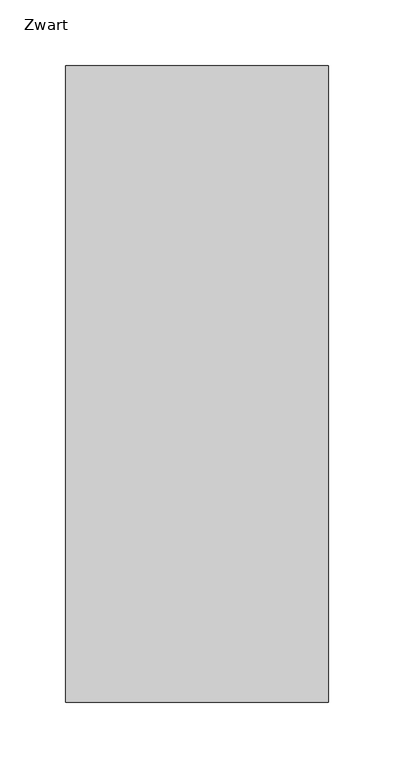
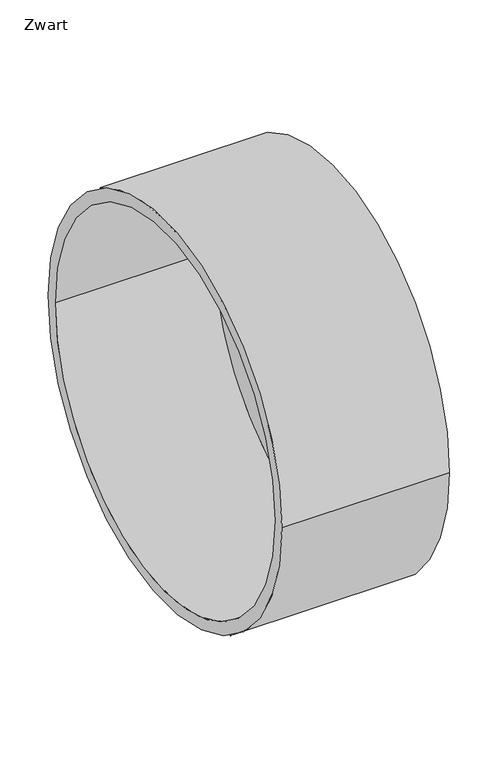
"""IFC4 building model written with IfcOpenShell, lengths in millimetres: pipe fitting geometry, NLRS_52_PIF_UN_Ultra Kyma afsluitkap LV_Dyka : Zwart."""

from ifc_helpers import new_model, si_unit, frame, origin, place, context, project, spatial, polyline, circle_curve, source, transform, mapped, element, save
from ifc_brep_helpers import plane_surface, cylinder_surface, revolved_surface, advanced_brep


def zwart_4540c7c7(model_context):
    return source(origin(), model_context, "Body", "AdvancedBrep", [
        advanced_brep(
        [(0.0, -227.0, 0.0), (0.0, 227.0, 0.0), (-190.0, 227.0, 0.0), (-190.0, -227.0, 0.0), (10.0, -242.0, 0.0), (10.0, 242.0, 0.0), (-190.0, -242.0, 0.0), (-190.0, 242.0, 0.0)],
        [
            (0, 1, circle_curve(frame((0.0, 0.0, 0.0), z_axis=(-1.0, 0.0, 0.0), x_axis=(0.0, 1.0, 0.0)), 227.0)),
            (1, 0, circle_curve(frame((0.0, 0.0, 0.0), z_axis=(-1.0, 0.0, 0.0), x_axis=(0.0, 1.0, 0.0)), 227.0)),
            (1, 2),
            (2, 3, circle_curve(frame((-190.0, 0.0, 0.0), z_axis=(-1.0, 0.0, 0.0), x_axis=(0.0, 1.0, 0.0)), 227.0)),
            (3, 0),
            (3, 2, circle_curve(frame((-190.0, 0.0, 0.0), z_axis=(-1.0, 0.0, 0.0), x_axis=(0.0, 1.0, 0.0)), 227.0)),
            (4, 5, circle_curve(frame((10.0, 0.0, 0.0), z_axis=(1.0, 0.0, 0.0), x_axis=(0.0, 1.0, 0.0)), 242.0)),
            (5, 4, circle_curve(frame((10.0, 0.0, 0.0), z_axis=(1.0, 0.0, 0.0), x_axis=(0.0, 1.0, 0.0)), 242.0)),
            (6, 7, circle_curve(frame((-190.0, 0.0, 0.0), z_axis=(-1.0, 0.0, 0.0), x_axis=(0.0, 1.0, 0.0)), 242.0)),
            (7, 6, circle_curve(frame((-190.0, 0.0, 0.0), z_axis=(-1.0, 0.0, 0.0), x_axis=(0.0, 1.0, 0.0)), 242.0)),
            (4, 6),
            (7, 5),
        ],
        [
            plane_surface(frame((0.0, 227.0, 0.0), z_axis=(-1.0, 0.0, 0.0), x_axis=(0.0, 0.0, 1.0))),
            revolved_surface(polyline([(0.0, 227.0, 0.0), (-190.0, 227.0, 0.0)]), (-190.0, 0.0, 0.0), (1.0, 0.0, 0.0)),
            plane_surface(frame((10.0, 242.0, 0.0), z_axis=(1.0, 0.0, 0.0), x_axis=(0.0, 0.0, 1.0))),
            plane_surface(frame((-190.0, 242.0, 0.0), z_axis=(-1.0, 0.0, 0.0), x_axis=(0.0, 0.0, -1.0))),
            cylinder_surface(frame((-190.0, 0.0, 0.0), z_axis=(1.0, 0.0, 0.0), x_axis=(0.0, 1.0, 0.0)), 242.0),
        ],
        [
            (0, [[1, 2]]),
            (1, [[-2, 3, 4, 5]]),
            (1, [[-1, -5, 6, -3]]),
            (2, [[7, 8]]),
            (3, [[9, 10], [-4, -6]]),
            (4, [[-7, 11, -10, 12]]),
            (4, [[-8, -12, -9, -11]]),
        ],
    ),
    ])


if __name__ == "__main__":
    model = new_model("IFC4")
    model_context = context("Model", 3, world=origin())
    ifc_project = project(units=[si_unit("LENGTHUNIT", "METRE", prefix="MILLI")], contexts=[model_context])
    site = spatial("IfcSite", under=ifc_project)
    building = spatial("IfcBuilding", under=site)
    placement = place(None, origin())
    zwart_shape = zwart_4540c7c7(model_context)
    element("IfcPipeFitting", 1, ObjectType="NLRS_52_PIF_UN_Ultra Kyma afsluitkap LV_Dyka : Zwart", at=placement, inside=building, context=model_context, shape_type="MappedRepresentation", body=[
        mapped(zwart_shape, transform((0.0, 0.0, 0.0), x_axis=(1.0, 0.0, 0.0), y_axis=(0.0, 1.0, 0.0), z_axis=(0.0, 0.0, 1.0))),
    ])
    save(model, "model.ifc")
